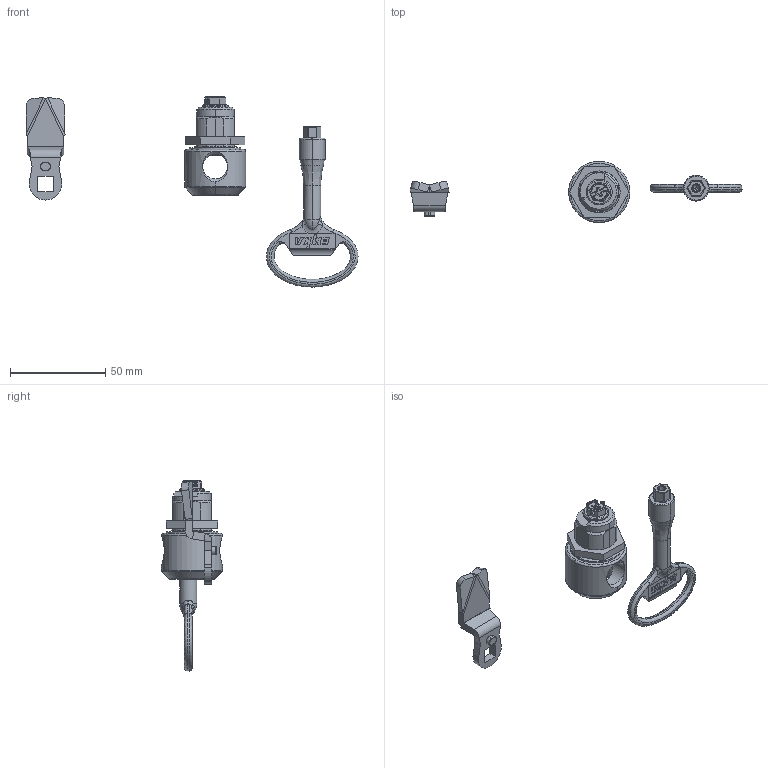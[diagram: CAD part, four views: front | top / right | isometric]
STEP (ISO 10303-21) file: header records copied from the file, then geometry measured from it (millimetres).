
FILE_DESCRIPTION (( 'STEP AP203' ), '1' );
FILE_NAME ('epl4.STEP', '2015-03-30T14:19:10', ( 'User' ), ( 'Pentair Inc' ), 'SwSTEP 2.0', 'SolidWorks 2010', '' );
FILE_SCHEMA (( 'CONFIG_CONTROL_DESIGN' ));
Length unit declared in the file: inch
Products named in the file (13): epl4; 87415583; 87558447; 99417395; 87959731; 99411283; 31122001_31122001; 87960057; 87959723; 87932266; 87932264; 99405181; 87939561
Assembly tree (12 placements, depth 4):
  epl4
    87415583
    87558447
      99417395
        99411283
        87959731
      31122001_31122001
      99405181
      87960057
        87959723
        87932264
        87932266
    87939561
Bounding box: 173.92 x 32 x 99.6 mm (x, y, z)
Volume: 12879.4 mm3; surface area: 20368.7 mm2
Topology: 7 solids, 11 shells, 720 faces, 1863 edges, 1161 vertices
Faces by surface type: plane 377, cylinder 197, bspline 107, cone 26, torus 13
Entity records: 29690 total; most frequent: CARTESIAN_POINT 11491, ORIENTED_EDGE 3674, DIRECTION 3282, EDGE_CURVE 1841, VERTEX_POINT 1161, LINE 1138, VECTOR 1138, AXIS2_PLACEMENT_3D 1072
